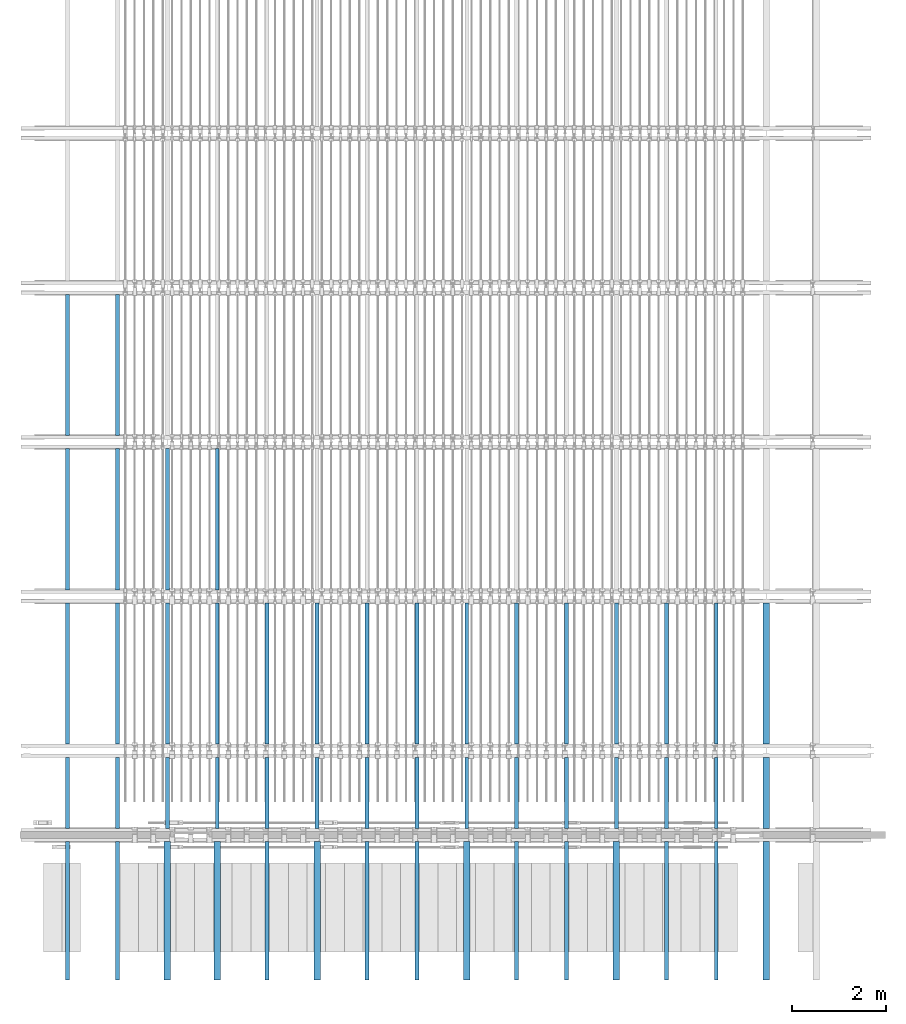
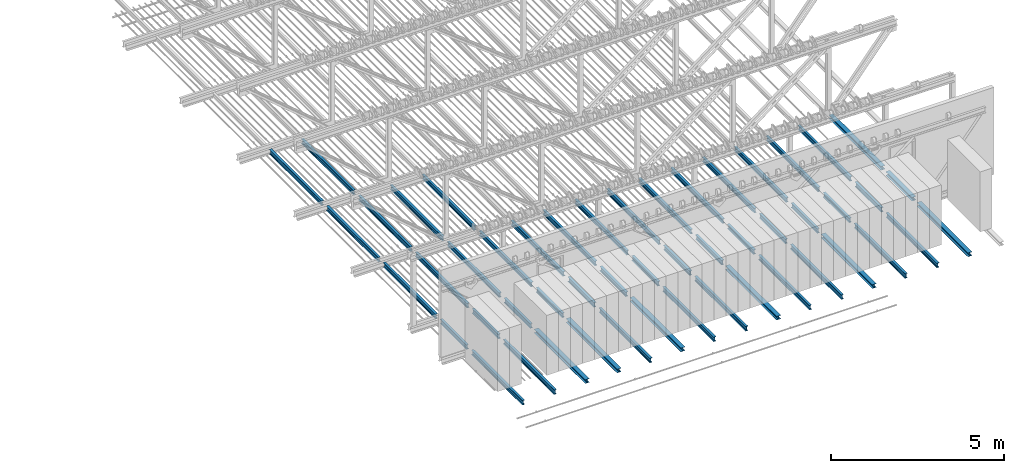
# One storey, part 1 of 8: 51 beams.
"""IFC2X3 building model written with IfcOpenShell, lengths in millimetres."""

from ifc_helpers import new_model, entity, si_unit, converted_unit, direction, frame, frame_2d, origin, place, context, subcontext, project, spatial, i_section, extrude, material, type_object, element, save


model = new_model("IFC2X3")

# Units and contexts
model_context = context("Model", 3, precision=0.01, world=origin(), true_north=direction((6.123233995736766e-17, 1.0)))
body_context = subcontext(model_context, "Body", "Model", "MODEL_VIEW")
ifc_project = project(units=[si_unit("LENGTHUNIT", "METRE", prefix="MILLI"), si_unit("AREAUNIT", "SQUARE_METRE"), converted_unit("PLANEANGLEUNIT", "DEGREE", entity("IfcPlaneAngleMeasure", 0.017453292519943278), si_unit("PLANEANGLEUNIT", "RADIAN"), dimensions=[0, 0, 0, 0, 0, 0, 0])], contexts=[model_context])

# Site, building, storey
site_placement = place(None, origin())
site = spatial("IfcSite", under=ifc_project, at=site_placement, Name="Default", CompositionType="ELEMENT")
building_placement = place(site_placement, origin())
building = spatial("IfcBuilding", under=site, at=building_placement, CompositionType="ELEMENT")
storey_placement = place(building_placement, frame((0.0, 0.0, 30550.0)))
storey = spatial("IfcBuildingStorey", under=building, at=storey_placement, Name="Rollenzolder", CompositionType="ELEMENT", Elevation=30550.000000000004)

# Beams
ifc_material = material(Name="Staal PBTA")
beam_type_1 = type_object("IfcBeamType", Name="H-Balk:HEA140", PredefinedType="BEAM")
beam_1_placement = place(storey_placement, frame((9736.744931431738, 12691.167906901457, -30.0), z_axis=(0.0, 0.0, 1.0), x_axis=(0.0, -1.0, 0.0)))
element("IfcBeam", 1, at=beam_1_placement, inside=storey, type_object=beam_type_1, material=ifc_material, Name="H-Balk:HEA140", ObjectType="H-Balk:HEA140", context=body_context, shape_type="SweptSolid", body=[
    extrude(i_section(OverallWidth=139.99999999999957, OverallDepth=132.99999999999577, WebThickness=5.499999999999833, FlangeThickness=8.499999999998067, FilletRadius=12.000000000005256, at=frame_2d((0.0, 0.0), x_axis=(0.0, 1.0))), frame((0.0, 0.0, -66.5000000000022), z_axis=(1.0, 0.0, 0.0), x_axis=(0.0, 0.0, -1.0)), (0.0, 0.0, 1.0), 2960.000000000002),
])
for number, where, z_axis, x_axis, name in (
    (2, (12936.74493143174, 12691.167906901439, -30.0), (0.0, 0.0, 1.0), (0.0, -1.0, 0.0), "H-Balk:HEA140"),
    (3, (16136.74493143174, 12691.167906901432, -30.0), (0.0, 0.0, 1.0), (0.0, -1.0, 0.0), "H-Balk:HEA140"),
):
    element("IfcBeam", number, at=place(storey_placement, frame(where, z_axis=z_axis, x_axis=x_axis)), inside=storey, type_object=beam_type_1, material=ifc_material, Name=name, ObjectType="H-Balk:HEA140", context=body_context, shape_type="SweptSolid", body=[
        extrude(i_section(OverallWidth=139.9999999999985, OverallDepth=132.99999999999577, WebThickness=5.500000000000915, FlangeThickness=8.499999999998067, FilletRadius=12.000000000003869, at=frame_2d((0.0, 1.0800249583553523e-12), x_axis=(0.0, 1.0))), frame((0.0, 0.0, -66.5000000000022), z_axis=(1.0, 0.0, 0.0), x_axis=(0.0, 0.0, -1.0)), (0.0, 0.0, 1.0), 2960.000000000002),
    ])
beam_2_placement = place(storey_placement, frame((19336.74493143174, 12691.167906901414, -30.0), z_axis=(0.0, 0.0, 1.0), x_axis=(0.0, -1.0, 0.0)))
element("IfcBeam", 4, at=beam_2_placement, inside=storey, type_object=beam_type_1, material=ifc_material, Name="H-Balk:HEA140", ObjectType="H-Balk:HEA140", context=body_context, shape_type="SweptSolid", body=[
    extrude(i_section(OverallWidth=139.9999999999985, OverallDepth=132.99999999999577, WebThickness=5.500000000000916, FlangeThickness=8.499999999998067, FilletRadius=12.000000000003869, at=frame_2d((0.0, 5.4143356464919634e-12), x_axis=(0.0, 1.0))), frame((0.0, 0.0, -66.5000000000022), z_axis=(1.0, 0.0, 0.0), x_axis=(0.0, 0.0, -1.0)), (0.0, 0.0, 1.0), 2960.000000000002),
])
beam_3_placement = place(storey_placement, frame((22536.744931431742, 12691.167906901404, -30.0), z_axis=(0.0, 0.0, 1.0), x_axis=(0.0, -1.0, 0.0)))
element("IfcBeam", 5, at=beam_3_placement, inside=storey, type_object=beam_type_1, material=ifc_material, Name="H-Balk:HEA140", ObjectType="H-Balk:HEA140", context=body_context, shape_type="SweptSolid", body=[
    extrude(i_section(OverallWidth=140.0000000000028, OverallDepth=132.99999999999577, WebThickness=5.4999999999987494, FlangeThickness=8.499999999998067, FilletRadius=12.000000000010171, at=frame_2d((0.0, -2.1600499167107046e-12), x_axis=(0.0, 1.0))), frame((0.0, 0.0, -66.5000000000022), z_axis=(1.0, 0.0, 0.0), x_axis=(0.0, 0.0, -1.0)), (0.0, 0.0, 1.0), 2960.000000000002),
])
beam_4_placement = place(storey_placement, frame((10803.411598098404, 12689.667906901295, -30.0), z_axis=(0.0, 0.0, 1.0), x_axis=(0.0, -1.0, 0.0)))
element("IfcBeam", 6, at=beam_4_placement, inside=storey, type_object=beam_type_1, material=ifc_material, Name="H-Balk:HEA140", ObjectType="H-Balk:HEA140", context=body_context, shape_type="SweptSolid", body=[
    extrude(i_section(OverallWidth=140.00000000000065, OverallDepth=132.99999999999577, WebThickness=5.500000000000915, FlangeThickness=8.499999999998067, FilletRadius=12.000000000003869, at=frame_2d((0.0, -1.0800249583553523e-12), x_axis=(0.0, 1.0))), frame((0.24999999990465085, 0.0, -66.5000000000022), z_axis=(1.0, 0.0, 0.0), x_axis=(0.0, 0.0, -1.0)), (0.0, 0.0, 1.0), 2958.000000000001),
])
beam_5_placement = place(storey_placement, frame((22536.74493143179, 14772.667906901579, -30.0), z_axis=(0.0, 0.0, 1.0), x_axis=(0.0, 1.0, 0.0)))
element("IfcBeam", 7, at=beam_5_placement, inside=storey, type_object=beam_type_1, material=ifc_material, Name="H-Balk:HEA140", ObjectType="H-Balk:HEA140", context=body_context, shape_type="SweptSolid", body=[
    extrude(i_section(OverallWidth=140.0000000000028, OverallDepth=133.00000000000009, WebThickness=5.4999999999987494, FlangeThickness=8.5000000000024, FilletRadius=12.000000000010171, at=frame_2d((2.1600499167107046e-12, 2.1600499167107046e-12), x_axis=(0.0, 1.0))), frame((0.0, 0.0, -66.5000000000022), z_axis=(1.0, 0.0, 0.0), x_axis=(0.0, 0.0, -1.0)), (0.0, 0.0, 1.0), 3017.0000000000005),
])
beam_6_placement = place(storey_placement, frame((22536.744931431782, 14489.66790690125, -30.0), z_axis=(0.0, 0.0, 1.0), x_axis=(0.0, -1.0, 0.0)))
element("IfcBeam", 8, at=beam_6_placement, inside=storey, type_object=beam_type_1, material=ifc_material, Name="H-Balk:HEA140", ObjectType="H-Balk:HEA140", context=body_context, shape_type="SweptSolid", body=[
    extrude(i_section(OverallWidth=140.0000000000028, OverallDepth=132.99999999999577, WebThickness=5.4999999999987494, FlangeThickness=8.499999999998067, FilletRadius=12.000000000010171, at=frame_2d((0.0, 2.1600499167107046e-12), x_axis=(0.0, 1.0))), frame((0.0, 0.0, -66.5000000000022), z_axis=(1.0, 0.0, 0.0), x_axis=(0.0, 0.0, -1.0)), (0.0, 0.0, 1.0), 1517.0000000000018),
])
beam_type_2 = type_object("IfcBeamType", Name="IPE-Balk:IPE160", PredefinedType="BEAM")
beam_7_placement = place(storey_placement, frame((10803.41159809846, 18072.667906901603, -30.0), z_axis=(0.0, 0.0, 1.0), x_axis=(0.0, 1.0, 0.0)))
element("IfcBeam", 9, at=beam_7_placement, inside=storey, type_object=beam_type_2, material=ifc_material, Name="IPE-Balk:IPE160", ObjectType="IPE-Balk:IPE160", context=body_context, shape_type="SweptSolid", body=[
    extrude(i_section(OverallWidth=82.00000000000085, OverallDepth=159.9999999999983, WebThickness=5.0000000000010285, FlangeThickness=7.399999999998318, FilletRadius=8.999999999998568, at=frame_2d((-4.32720526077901e-12, -1.0835776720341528e-12), x_axis=(0.0, 1.0))), frame((0.0, 0.0, -80.0), z_axis=(1.0, 0.0, 0.0), x_axis=(0.0, 0.0, -1.0)), (0.0, 0.0, 1.0), 3017.0000000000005),
])
for number, where, z_axis, x_axis, name in (
    (10, (10803.411598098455, 14772.667906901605, -30.0), (0.0, 0.0, 1.0), (0.0, 1.0, 0.0), "IPE-Balk:IPE160"),
    (11, (11870.078264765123, 14772.66790690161, -30.0), (0.0, 0.0, 1.0), (0.0, 1.0, 0.0), "IPE-Balk:IPE160"),
):
    element("IfcBeam", number, at=place(storey_placement, frame(where, z_axis=z_axis, x_axis=x_axis)), inside=storey, type_object=beam_type_2, material=ifc_material, Name=name, ObjectType="IPE-Balk:IPE160", context=body_context, shape_type="SweptSolid", body=[
        extrude(i_section(OverallWidth=82.00000000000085, OverallDepth=159.9999999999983, WebThickness=5.0000000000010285, FlangeThickness=7.399999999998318, FilletRadius=8.999999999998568, at=frame_2d((-4.32720526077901e-12, 1.0835776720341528e-12), x_axis=(0.0, 1.0))), frame((0.0, 0.0, -80.0), z_axis=(1.0, 0.0, 0.0), x_axis=(0.0, 0.0, -1.0)), (0.0, 0.0, 1.0), 3017.0000000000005),
    ])
beam_8_placement = place(storey_placement, frame((11870.07826476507, 12689.66790690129, -30.0), z_axis=(0.0, 0.0, 1.0), x_axis=(0.0, -1.0, 0.0)))
element("IfcBeam", 12, at=beam_8_placement, inside=storey, type_object=beam_type_2, material=ifc_material, Name="IPE-Balk:IPE160", ObjectType="IPE-Balk:IPE160", context=body_context, shape_type="SweptSolid", body=[
    extrude(i_section(OverallWidth=81.99999999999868, OverallDepth=159.9999999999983, WebThickness=5.0000000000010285, FlangeThickness=7.399999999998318, FilletRadius=8.999999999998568, at=frame_2d((-4.32720526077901e-12, 0.0), x_axis=(0.0, 1.0))), frame((0.24999999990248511, 0.0, -80.0), z_axis=(1.0, 0.0, 0.0), x_axis=(0.0, 0.0, -1.0)), (0.0, 0.0, 1.0), 2958.000000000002),
])
for number, where, z_axis, x_axis, name in (
    (13, (10803.411598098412, 14489.667906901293, -30.0), (0.0, 0.0, 1.0), (0.0, -1.0, 0.0), "IPE-Balk:IPE160"),
    (14, (11870.07826476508, 14489.667906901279, -30.0), (0.0, 0.0, 1.0), (0.0, -1.0, 0.0), "IPE-Balk:IPE160"),
):
    element("IfcBeam", number, at=place(storey_placement, frame(where, z_axis=z_axis, x_axis=x_axis)), inside=storey, type_object=beam_type_2, material=ifc_material, Name=name, ObjectType="IPE-Balk:IPE160", context=body_context, shape_type="SweptSolid", body=[
        extrude(i_section(OverallWidth=82.00000000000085, OverallDepth=159.9999999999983, WebThickness=5.0000000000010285, FlangeThickness=7.399999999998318, FilletRadius=8.999999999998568, at=frame_2d((-4.32720526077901e-12, 0.0), x_axis=(0.0, 1.0))), frame((0.0, 0.0, -80.0), z_axis=(1.0, 0.0, 0.0), x_axis=(0.0, 0.0, -1.0)), (0.0, 0.0, 1.0), 1517.0000000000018),
    ])
beam_9_placement = place(storey_placement, frame((14003.411598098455, 14772.667906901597, -30.0), z_axis=(0.0, 0.0, 1.0), x_axis=(0.0, 1.0, 0.0)))
element("IfcBeam", 15, at=beam_9_placement, inside=storey, type_object=beam_type_2, material=ifc_material, Name="IPE-Balk:IPE160", ObjectType="IPE-Balk:IPE160", context=body_context, shape_type="SweptSolid", body=[
    extrude(i_section(OverallWidth=82.00000000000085, OverallDepth=159.9999999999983, WebThickness=5.0000000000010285, FlangeThickness=7.399999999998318, FilletRadius=8.999999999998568, at=frame_2d((-4.32720526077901e-12, 1.0835776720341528e-12), x_axis=(0.0, 1.0))), frame((0.0, 0.0, -80.0), z_axis=(1.0, 0.0, 0.0), x_axis=(0.0, 0.0, -1.0)), (0.0, 0.0, 1.0), 3017.0000000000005),
])
beam_10_placement = place(storey_placement, frame((15070.078264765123, 14772.6679069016, -30.0), z_axis=(0.0, 0.0, 1.0), x_axis=(0.0, 1.0, 0.0)))
element("IfcBeam", 16, at=beam_10_placement, inside=storey, type_object=beam_type_2, material=ifc_material, Name="IPE-Balk:IPE160", ObjectType="IPE-Balk:IPE160", context=body_context, shape_type="SweptSolid", body=[
    extrude(i_section(OverallWidth=82.00000000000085, OverallDepth=159.9999999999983, WebThickness=5.0000000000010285, FlangeThickness=7.399999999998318, FilletRadius=8.999999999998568, at=frame_2d((-4.32720526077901e-12, 3.247180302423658e-12), x_axis=(0.0, 1.0))), frame((0.0, 0.0, -80.0), z_axis=(1.0, 0.0, 0.0), x_axis=(0.0, 0.0, -1.0)), (0.0, 0.0, 1.0), 3017.0000000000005),
])
beam_11_placement = place(storey_placement, frame((14003.411598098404, 12689.667906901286, -30.0), z_axis=(0.0, 0.0, 1.0), x_axis=(0.0, -1.0, 0.0)))
element("IfcBeam", 17, at=beam_11_placement, inside=storey, type_object=beam_type_2, material=ifc_material, Name="IPE-Balk:IPE160", ObjectType="IPE-Balk:IPE160", context=body_context, shape_type="SweptSolid", body=[
    extrude(i_section(OverallWidth=81.99999999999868, OverallDepth=159.9999999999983, WebThickness=5.0000000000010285, FlangeThickness=7.399999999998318, FilletRadius=8.999999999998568, at=frame_2d((-4.32720526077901e-12, 0.0), x_axis=(0.0, 1.0))), frame((0.2499999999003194, 0.0, -80.0), z_axis=(1.0, 0.0, 0.0), x_axis=(0.0, 0.0, -1.0)), (0.0, 0.0, 1.0), 2957.9999999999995),
])
beam_12_placement = place(storey_placement, frame((15070.07826476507, 12689.667906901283, -30.0), z_axis=(0.0, 0.0, 1.0), x_axis=(0.0, -1.0, 0.0)))
element("IfcBeam", 18, at=beam_12_placement, inside=storey, type_object=beam_type_2, material=ifc_material, Name="IPE-Balk:IPE160", ObjectType="IPE-Balk:IPE160", context=body_context, shape_type="SweptSolid", body=[
    extrude(i_section(OverallWidth=81.99999999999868, OverallDepth=159.9999999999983, WebThickness=5.0000000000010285, FlangeThickness=7.399999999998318, FilletRadius=8.999999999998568, at=frame_2d((-4.32720526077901e-12, 0.0), x_axis=(0.0, 1.0))), frame((0.24999999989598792, 0.0, -80.0), z_axis=(1.0, 0.0, 0.0), x_axis=(0.0, 0.0, -1.0)), (0.0, 0.0, 1.0), 2958.000000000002),
])
for number, where, z_axis, x_axis, name in (
    (19, (14003.411598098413, 14489.667906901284, -30.0), (0.0, 0.0, 1.0), (0.0, -1.0, 0.0), "IPE-Balk:IPE160"),
    (20, (15070.07826476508, 14489.667906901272, -30.0), (0.0, 0.0, 1.0), (0.0, -1.0, 0.0), "IPE-Balk:IPE160"),
):
    element("IfcBeam", number, at=place(storey_placement, frame(where, z_axis=z_axis, x_axis=x_axis)), inside=storey, type_object=beam_type_2, material=ifc_material, Name=name, ObjectType="IPE-Balk:IPE160", context=body_context, shape_type="SweptSolid", body=[
        extrude(i_section(OverallWidth=82.00000000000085, OverallDepth=159.9999999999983, WebThickness=5.0000000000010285, FlangeThickness=7.399999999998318, FilletRadius=8.999999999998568, at=frame_2d((-4.32720526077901e-12, 0.0), x_axis=(0.0, 1.0))), frame((0.0, 0.0, -80.0), z_axis=(1.0, 0.0, 0.0), x_axis=(0.0, 0.0, -1.0)), (0.0, 0.0, 1.0), 1517.0000000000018),
    ])
beam_13_placement = place(storey_placement, frame((17203.411598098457, 14772.667906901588, -30.0), z_axis=(0.0, 0.0, 1.0), x_axis=(0.0, 1.0, 0.0)))
element("IfcBeam", 21, at=beam_13_placement, inside=storey, type_object=beam_type_2, material=ifc_material, Name="IPE-Balk:IPE160", ObjectType="IPE-Balk:IPE160", context=body_context, shape_type="SweptSolid", body=[
    extrude(i_section(OverallWidth=82.00000000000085, OverallDepth=159.9999999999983, WebThickness=5.0000000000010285, FlangeThickness=7.399999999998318, FilletRadius=8.999999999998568, at=frame_2d((-4.32720526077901e-12, 3.247180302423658e-12), x_axis=(0.0, 1.0))), frame((0.0, 0.0, -80.0), z_axis=(1.0, 0.0, 0.0), x_axis=(0.0, 0.0, -1.0)), (0.0, 0.0, 1.0), 3017.0000000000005),
])
beam_14_placement = place(storey_placement, frame((18270.07826476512, 14772.667906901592, -30.0), z_axis=(0.0, 0.0, 1.0), x_axis=(0.0, 1.0, 0.0)))
element("IfcBeam", 22, at=beam_14_placement, inside=storey, type_object=beam_type_2, material=ifc_material, Name="IPE-Balk:IPE160", ObjectType="IPE-Balk:IPE160", context=body_context, shape_type="SweptSolid", body=[
    extrude(i_section(OverallWidth=82.00000000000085, OverallDepth=159.9999999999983, WebThickness=5.0000000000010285, FlangeThickness=7.399999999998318, FilletRadius=8.999999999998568, at=frame_2d((-4.32720526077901e-12, 1.0835776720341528e-12), x_axis=(0.0, 1.0))), frame((0.0, 0.0, -80.0), z_axis=(1.0, 0.0, 0.0), x_axis=(0.0, 0.0, -1.0)), (0.0, 0.0, 1.0), 3017.0000000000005),
])
beam_15_placement = place(storey_placement, frame((17203.411598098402, 12689.667906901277, -30.0), z_axis=(0.0, 0.0, 1.0), x_axis=(0.0, -1.0, 0.0)))
element("IfcBeam", 23, at=beam_15_placement, inside=storey, type_object=beam_type_2, material=ifc_material, Name="IPE-Balk:IPE160", ObjectType="IPE-Balk:IPE160", context=body_context, shape_type="SweptSolid", body=[
    extrude(i_section(OverallWidth=81.99999999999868, OverallDepth=159.9999999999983, WebThickness=5.0000000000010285, FlangeThickness=7.399999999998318, FilletRadius=8.999999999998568, at=frame_2d((-4.32720526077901e-12, -2.163602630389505e-12), x_axis=(0.0, 1.0))), frame((0.24999999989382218, 0.0, -80.0), z_axis=(1.0, 0.0, 0.0), x_axis=(0.0, 0.0, -1.0)), (0.0, 0.0, 1.0), 2957.9999999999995),
])
beam_16_placement = place(storey_placement, frame((18270.07826476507, 12689.667906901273, -30.0), z_axis=(0.0, 0.0, 1.0), x_axis=(0.0, -1.0, 0.0)))
element("IfcBeam", 24, at=beam_16_placement, inside=storey, type_object=beam_type_2, material=ifc_material, Name="IPE-Balk:IPE160", ObjectType="IPE-Balk:IPE160", context=body_context, shape_type="SweptSolid", body=[
    extrude(i_section(OverallWidth=81.99999999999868, OverallDepth=159.9999999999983, WebThickness=5.0000000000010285, FlangeThickness=7.399999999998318, FilletRadius=8.999999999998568, at=frame_2d((-4.32720526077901e-12, -2.163602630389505e-12), x_axis=(0.0, 1.0))), frame((0.24999999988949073, 0.0, -80.0), z_axis=(1.0, 0.0, 0.0), x_axis=(0.0, 0.0, -1.0)), (0.0, 0.0, 1.0), 2958.000000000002),
])
for number, where, z_axis, x_axis, name in (
    (25, (17203.411598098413, 14489.667906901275, -30.0), (0.0, 0.0, 1.0), (0.0, -1.0, 0.0), "IPE-Balk:IPE160"),
    (26, (18270.07826476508, 14489.667906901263, -30.0), (0.0, 0.0, 1.0), (0.0, -1.0, 0.0), "IPE-Balk:IPE160"),
):
    element("IfcBeam", number, at=place(storey_placement, frame(where, z_axis=z_axis, x_axis=x_axis)), inside=storey, type_object=beam_type_2, material=ifc_material, Name=name, ObjectType="IPE-Balk:IPE160", context=body_context, shape_type="SweptSolid", body=[
        extrude(i_section(OverallWidth=82.00000000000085, OverallDepth=159.9999999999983, WebThickness=5.0000000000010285, FlangeThickness=7.399999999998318, FilletRadius=8.999999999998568, at=frame_2d((-4.32720526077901e-12, 0.0), x_axis=(0.0, 1.0))), frame((0.0, 0.0, -80.0), z_axis=(1.0, 0.0, 0.0), x_axis=(0.0, 0.0, -1.0)), (0.0, 0.0, 1.0), 1517.0000000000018),
    ])
beam_17_placement = place(storey_placement, frame((20403.411598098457, 14772.667906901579, -30.0), z_axis=(0.0, 0.0, 1.0), x_axis=(0.0, 1.0, 0.0)))
element("IfcBeam", 27, at=beam_17_placement, inside=storey, type_object=beam_type_2, material=ifc_material, Name="IPE-Balk:IPE160", ObjectType="IPE-Balk:IPE160", context=body_context, shape_type="SweptSolid", body=[
    extrude(i_section(OverallWidth=81.99999999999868, OverallDepth=159.9999999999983, WebThickness=4.999999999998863, FlangeThickness=7.399999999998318, FilletRadius=8.999999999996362, at=frame_2d((-4.32720526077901e-12, 4.330757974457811e-12), x_axis=(0.0, 1.0))), frame((0.0, 0.0, -80.0), z_axis=(1.0, 0.0, 0.0), x_axis=(0.0, 0.0, -1.0)), (0.0, 0.0, 1.0), 3017.0000000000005),
])
beam_18_placement = place(storey_placement, frame((21470.078264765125, 14772.667906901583, -30.0), z_axis=(0.0, 0.0, 1.0), x_axis=(0.0, 1.0, 0.0)))
element("IfcBeam", 28, at=beam_18_placement, inside=storey, type_object=beam_type_2, material=ifc_material, Name="IPE-Balk:IPE160", ObjectType="IPE-Balk:IPE160", context=body_context, shape_type="SweptSolid", body=[
    extrude(i_section(OverallWidth=81.99999999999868, OverallDepth=159.9999999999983, WebThickness=4.999999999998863, FlangeThickness=7.399999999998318, FilletRadius=8.999999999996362, at=frame_2d((-4.32720526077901e-12, 0.0), x_axis=(0.0, 1.0))), frame((0.0, 0.0, -80.0), z_axis=(1.0, 0.0, 0.0), x_axis=(0.0, 0.0, -1.0)), (0.0, 0.0, 1.0), 3017.0000000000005),
])
beam_19_placement = place(storey_placement, frame((20403.411598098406, 12689.667906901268, -30.0), z_axis=(0.0, 0.0, 1.0), x_axis=(0.0, -1.0, 0.0)))
element("IfcBeam", 29, at=beam_19_placement, inside=storey, type_object=beam_type_2, material=ifc_material, Name="IPE-Balk:IPE160", ObjectType="IPE-Balk:IPE160", context=body_context, shape_type="SweptSolid", body=[
    extrude(i_section(OverallWidth=81.99999999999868, OverallDepth=159.9999999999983, WebThickness=4.999999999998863, FlangeThickness=7.399999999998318, FilletRadius=8.999999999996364, at=frame_2d((-4.32720526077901e-12, 0.0), x_axis=(0.0, 1.0))), frame((0.24999999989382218, 0.0, -80.0), z_axis=(1.0, 0.0, 0.0), x_axis=(0.0, 0.0, -1.0)), (0.0, 0.0, 1.0), 2957.9999999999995),
])
beam_20_placement = place(storey_placement, frame((21470.07826476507, 12689.667906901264, -30.0), z_axis=(0.0, 0.0, 1.0), x_axis=(0.0, -1.0, 0.0)))
element("IfcBeam", 30, at=beam_20_placement, inside=storey, type_object=beam_type_2, material=ifc_material, Name="IPE-Balk:IPE160", ObjectType="IPE-Balk:IPE160", context=body_context, shape_type="SweptSolid", body=[
    extrude(i_section(OverallWidth=81.99999999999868, OverallDepth=159.9999999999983, WebThickness=4.999999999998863, FlangeThickness=7.399999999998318, FilletRadius=8.999999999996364, at=frame_2d((-4.32720526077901e-12, 0.0), x_axis=(0.0, 1.0))), frame((0.24999999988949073, 0.0, -80.0), z_axis=(1.0, 0.0, 0.0), x_axis=(0.0, 0.0, -1.0)), (0.0, 0.0, 1.0), 2958.000000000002),
])
for number, where, z_axis, x_axis, name in (
    (31, (20403.411598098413, 14489.667906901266, -30.0), (0.0, 0.0, 1.0), (0.0, -1.0, 0.0), "IPE-Balk:IPE160"),
    (32, (21470.07826476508, 14489.667906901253, -30.0), (0.0, 0.0, 1.0), (0.0, -1.0, 0.0), "IPE-Balk:IPE160"),
):
    element("IfcBeam", number, at=place(storey_placement, frame(where, z_axis=z_axis, x_axis=x_axis)), inside=storey, type_object=beam_type_2, material=ifc_material, Name=name, ObjectType="IPE-Balk:IPE160", context=body_context, shape_type="SweptSolid", body=[
        extrude(i_section(OverallWidth=81.99999999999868, OverallDepth=159.9999999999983, WebThickness=4.999999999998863, FlangeThickness=7.399999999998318, FilletRadius=8.999999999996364, at=frame_2d((-4.32720526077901e-12, 0.0), x_axis=(0.0, 1.0))), frame((0.0, 0.0, -80.0), z_axis=(1.0, 0.0, 0.0), x_axis=(0.0, 0.0, -1.0)), (0.0, 0.0, 1.0), 1517.0000000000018),
    ])
beam_21_placement = place(storey_placement, frame((7603.411598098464, 21372.667906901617, -30.0), z_axis=(0.0, 0.0, 1.0), x_axis=(0.0, 1.0, 0.0)))
element("IfcBeam", 33, at=beam_21_placement, inside=storey, type_object=beam_type_2, material=ifc_material, Name="IPE-Balk:IPE160", ObjectType="IPE-Balk:IPE160", context=body_context, shape_type="SweptSolid", body=[
    extrude(i_section(OverallWidth=81.99999999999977, OverallDepth=159.9999999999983, WebThickness=4.999999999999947, FlangeThickness=7.399999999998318, FilletRadius=8.999999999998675, at=frame_2d((-4.32720526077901e-12, 5.435651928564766e-13), x_axis=(0.0, 1.0))), frame((0.0, 0.0, -80.0), z_axis=(1.0, 0.0, 0.0), x_axis=(0.0, 0.0, -1.0)), (0.0, 0.0, 1.0), 3017.0000000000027),
])
beam_22_placement = place(storey_placement, frame((8670.07826476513, 21372.667906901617, -30.0), z_axis=(0.0, 0.0, 1.0), x_axis=(0.0, 1.0, 0.0)))
element("IfcBeam", 34, at=beam_22_placement, inside=storey, type_object=beam_type_2, material=ifc_material, Name="IPE-Balk:IPE160", ObjectType="IPE-Balk:IPE160", context=body_context, shape_type="SweptSolid", body=[
    extrude(i_section(OverallWidth=81.99999999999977, OverallDepth=159.9999999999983, WebThickness=4.999999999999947, FlangeThickness=7.399999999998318, FilletRadius=8.999999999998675, at=frame_2d((-4.32720526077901e-12, 1.623590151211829e-12), x_axis=(0.0, 1.0))), frame((0.0, 0.0, -80.0), z_axis=(1.0, 0.0, 0.0), x_axis=(0.0, 0.0, -1.0)), (0.0, 0.0, 1.0), 3017.0000000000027),
])
beam_23_placement = place(storey_placement, frame((7603.41159809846, 18072.667906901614, -30.0), z_axis=(0.0, 0.0, 1.0), x_axis=(0.0, 1.0, 0.0)))
element("IfcBeam", 35, at=beam_23_placement, inside=storey, type_object=beam_type_2, material=ifc_material, Name="IPE-Balk:IPE160", ObjectType="IPE-Balk:IPE160", context=body_context, shape_type="SweptSolid", body=[
    extrude(i_section(OverallWidth=81.99999999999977, OverallDepth=159.9999999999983, WebThickness=4.999999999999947, FlangeThickness=7.399999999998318, FilletRadius=8.999999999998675, at=frame_2d((-4.32720526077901e-12, -5.435651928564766e-13), x_axis=(0.0, 1.0))), frame((0.0, 0.0, -80.0), z_axis=(1.0, 0.0, 0.0), x_axis=(0.0, 0.0, -1.0)), (0.0, 0.0, 1.0), 3017.0000000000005),
])
beam_24_placement = place(storey_placement, frame((8670.078264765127, 18072.667906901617, -30.0), z_axis=(0.0, 0.0, 1.0), x_axis=(0.0, 1.0, 0.0)))
element("IfcBeam", 36, at=beam_24_placement, inside=storey, type_object=beam_type_2, material=ifc_material, Name="IPE-Balk:IPE160", ObjectType="IPE-Balk:IPE160", context=body_context, shape_type="SweptSolid", body=[
    extrude(i_section(OverallWidth=81.99999999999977, OverallDepth=159.9999999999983, WebThickness=4.999999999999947, FlangeThickness=7.399999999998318, FilletRadius=8.999999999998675, at=frame_2d((-4.32720526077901e-12, -1.623590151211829e-12), x_axis=(0.0, 1.0))), frame((0.0, 0.0, -80.0), z_axis=(1.0, 0.0, 0.0), x_axis=(0.0, 0.0, -1.0)), (0.0, 0.0, 1.0), 3017.0000000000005),
])
for number, where, z_axis, x_axis, name in (
    (37, (7603.411598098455, 14772.667906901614, -30.0), (0.0, 0.0, 1.0), (0.0, 1.0, 0.0), "IPE-Balk:IPE160"),
    (38, (8670.078264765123, 14772.667906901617, -30.0), (0.0, 0.0, 1.0), (0.0, 1.0, 0.0), "IPE-Balk:IPE160"),
):
    element("IfcBeam", number, at=place(storey_placement, frame(where, z_axis=z_axis, x_axis=x_axis)), inside=storey, type_object=beam_type_2, material=ifc_material, Name=name, ObjectType="IPE-Balk:IPE160", context=body_context, shape_type="SweptSolid", body=[
        extrude(i_section(OverallWidth=81.99999999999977, OverallDepth=159.9999999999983, WebThickness=4.999999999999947, FlangeThickness=7.399999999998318, FilletRadius=8.999999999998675, at=frame_2d((-4.32720526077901e-12, -5.435651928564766e-13), x_axis=(0.0, 1.0))), frame((0.0, 0.0, -80.0), z_axis=(1.0, 0.0, 0.0), x_axis=(0.0, 0.0, -1.0)), (0.0, 0.0, 1.0), 3017.0000000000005),
    ])
beam_25_placement = place(storey_placement, frame((7603.411598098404, 12689.667906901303, -30.0), z_axis=(0.0, 0.0, 1.0), x_axis=(0.0, -1.0, 0.0)))
element("IfcBeam", 39, at=beam_25_placement, inside=storey, type_object=beam_type_2, material=ifc_material, Name="IPE-Balk:IPE160", ObjectType="IPE-Balk:IPE160", context=body_context, shape_type="SweptSolid", body=[
    extrude(i_section(OverallWidth=82.00000000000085, OverallDepth=159.9999999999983, WebThickness=4.999999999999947, FlangeThickness=7.399999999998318, FilletRadius=8.99999999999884, at=frame_2d((-4.32720526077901e-12, 1.623590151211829e-12), x_axis=(0.0, 1.0))), frame((0.2499999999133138, 0.0, -80.0), z_axis=(1.0, 0.0, 0.0), x_axis=(0.0, 0.0, -1.0)), (0.0, 0.0, 1.0), 2957.9999999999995),
])
beam_26_placement = place(storey_placement, frame((8670.078264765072, 12689.667906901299, -30.0), z_axis=(0.0, 0.0, 1.0), x_axis=(0.0, -1.0, 0.0)))
element("IfcBeam", 40, at=beam_26_placement, inside=storey, type_object=beam_type_2, material=ifc_material, Name="IPE-Balk:IPE160", ObjectType="IPE-Balk:IPE160", context=body_context, shape_type="SweptSolid", body=[
    extrude(i_section(OverallWidth=82.00000000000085, OverallDepth=159.9999999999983, WebThickness=4.999999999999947, FlangeThickness=7.399999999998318, FilletRadius=8.99999999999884, at=frame_2d((-4.32720526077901e-12, 1.623590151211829e-12), x_axis=(0.0, 1.0))), frame((0.24999999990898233, 0.0, -80.0), z_axis=(1.0, 0.0, 0.0), x_axis=(0.0, 0.0, -1.0)), (0.0, 0.0, 1.0), 2958.000000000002),
])
beam_27_placement = place(storey_placement, frame((7603.411598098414, 14489.6679069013, -30.0), z_axis=(0.0, 0.0, 1.0), x_axis=(0.0, -1.0, 0.0)))
element("IfcBeam", 41, at=beam_27_placement, inside=storey, type_object=beam_type_2, material=ifc_material, Name="IPE-Balk:IPE160", ObjectType="IPE-Balk:IPE160", context=body_context, shape_type="SweptSolid", body=[
    extrude(i_section(OverallWidth=82.00000000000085, OverallDepth=159.9999999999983, WebThickness=4.999999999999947, FlangeThickness=7.399999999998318, FilletRadius=8.99999999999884, at=frame_2d((-4.32720526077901e-12, -5.435651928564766e-13), x_axis=(0.0, 1.0))), frame((0.0, 0.0, -80.0), z_axis=(1.0, 0.0, 0.0), x_axis=(0.0, 0.0, -1.0)), (0.0, 0.0, 1.0), 1517.0000000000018),
])
beam_28_placement = place(storey_placement, frame((8670.078264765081, 14489.667906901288, -30.0), z_axis=(0.0, 0.0, 1.0), x_axis=(0.0, -1.0, 0.0)))
element("IfcBeam", 42, at=beam_28_placement, inside=storey, type_object=beam_type_2, material=ifc_material, Name="IPE-Balk:IPE160", ObjectType="IPE-Balk:IPE160", context=body_context, shape_type="SweptSolid", body=[
    extrude(i_section(OverallWidth=82.00000000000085, OverallDepth=159.9999999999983, WebThickness=4.999999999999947, FlangeThickness=7.399999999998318, FilletRadius=8.99999999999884, at=frame_2d((-4.32720526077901e-12, -1.623590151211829e-12), x_axis=(0.0, 1.0))), frame((0.0, 0.0, -80.0), z_axis=(1.0, 0.0, 0.0), x_axis=(0.0, 0.0, -1.0)), (0.0, 0.0, 1.0), 1517.0000000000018),
])
beam_29_placement = place(storey_placement, frame((9736.744931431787, 18072.667906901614, -30.0), z_axis=(0.0, 0.0, 1.0), x_axis=(0.0, 1.0, 0.0)))
element("IfcBeam", 43, at=beam_29_placement, inside=storey, type_object=beam_type_2, material=ifc_material, Name="IPE-Balk:IPE160", ObjectType="IPE-Balk:IPE160", context=body_context, shape_type="SweptSolid", body=[
    extrude(i_section(OverallWidth=82.00000000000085, OverallDepth=159.9999999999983, WebThickness=4.999999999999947, FlangeThickness=7.399999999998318, FilletRadius=8.999999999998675, at=frame_2d((-4.32720526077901e-12, 0.0), x_axis=(0.0, 1.0))), frame((0.0, 0.0, -80.0), z_axis=(1.0, 0.0, 0.0), x_axis=(0.0, 0.0, -1.0)), (0.0, 0.0, 1.0), 3017.0000000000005),
])
beam_30_placement = place(storey_placement, frame((12936.74493143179, 14772.667906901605, -30.0), z_axis=(0.0, 0.0, 1.0), x_axis=(0.0, 1.0, 0.0)))
element("IfcBeam", 44, at=beam_30_placement, inside=storey, type_object=beam_type_2, material=ifc_material, Name="IPE-Balk:IPE160", ObjectType="IPE-Balk:IPE160", context=body_context, shape_type="SweptSolid", body=[
    extrude(i_section(OverallWidth=82.00000000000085, OverallDepth=159.9999999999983, WebThickness=5.0000000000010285, FlangeThickness=7.399999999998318, FilletRadius=8.999999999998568, at=frame_2d((-4.32720526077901e-12, 3.247180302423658e-12), x_axis=(0.0, 1.0))), frame((0.0, 0.0, -80.0), z_axis=(1.0, 0.0, 0.0), x_axis=(0.0, 0.0, -1.0)), (0.0, 0.0, 1.0), 3017.0000000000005),
])
beam_31_placement = place(storey_placement, frame((16136.74493143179, 14772.667906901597, -30.0), z_axis=(0.0, 0.0, 1.0), x_axis=(0.0, 1.0, 0.0)))
element("IfcBeam", 45, at=beam_31_placement, inside=storey, type_object=beam_type_2, material=ifc_material, Name="IPE-Balk:IPE160", ObjectType="IPE-Balk:IPE160", context=body_context, shape_type="SweptSolid", body=[
    extrude(i_section(OverallWidth=82.00000000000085, OverallDepth=159.9999999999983, WebThickness=5.0000000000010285, FlangeThickness=7.399999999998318, FilletRadius=8.999999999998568, at=frame_2d((-4.32720526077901e-12, 1.0835776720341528e-12), x_axis=(0.0, 1.0))), frame((0.0, 0.0, -80.0), z_axis=(1.0, 0.0, 0.0), x_axis=(0.0, 0.0, -1.0)), (0.0, 0.0, 1.0), 3017.0000000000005),
])
beam_32_placement = place(storey_placement, frame((19336.74493143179, 14772.667906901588, -30.0), z_axis=(0.0, 0.0, 1.0), x_axis=(0.0, 1.0, 0.0)))
element("IfcBeam", 46, at=beam_32_placement, inside=storey, type_object=beam_type_2, material=ifc_material, Name="IPE-Balk:IPE160", ObjectType="IPE-Balk:IPE160", context=body_context, shape_type="SweptSolid", body=[
    extrude(i_section(OverallWidth=82.00000000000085, OverallDepth=159.9999999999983, WebThickness=5.0000000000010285, FlangeThickness=7.399999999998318, FilletRadius=8.999999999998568, at=frame_2d((-4.32720526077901e-12, 3.247180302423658e-12), x_axis=(0.0, 1.0))), frame((0.0, 0.0, -80.0), z_axis=(1.0, 0.0, 0.0), x_axis=(0.0, 0.0, -1.0)), (0.0, 0.0, 1.0), 3017.0000000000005),
])
beam_33_placement = place(storey_placement, frame((9736.744931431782, 14772.667906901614, -30.0), z_axis=(0.0, 0.0, 1.0), x_axis=(0.0, 1.0, 0.0)))
element("IfcBeam", 47, at=beam_33_placement, inside=storey, type_object=beam_type_2, material=ifc_material, Name="IPE-Balk:IPE160", ObjectType="IPE-Balk:IPE160", context=body_context, shape_type="SweptSolid", body=[
    extrude(i_section(OverallWidth=81.99999999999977, OverallDepth=159.9999999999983, WebThickness=4.999999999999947, FlangeThickness=7.399999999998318, FilletRadius=8.999999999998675, at=frame_2d((-4.32720526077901e-12, 3.7907454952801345e-12), x_axis=(0.0, 1.0))), frame((0.0, 0.0, -80.0), z_axis=(1.0, 0.0, 0.0), x_axis=(0.0, 0.0, -1.0)), (0.0, 0.0, 1.0), 3017.0000000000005),
])
beam_34_placement = place(storey_placement, frame((12936.744931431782, 14489.667906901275, -30.0), z_axis=(0.0, 0.0, 1.0), x_axis=(0.0, -1.0, 0.0)))
element("IfcBeam", 48, at=beam_34_placement, inside=storey, type_object=beam_type_2, material=ifc_material, Name="IPE-Balk:IPE160", ObjectType="IPE-Balk:IPE160", context=body_context, shape_type="SweptSolid", body=[
    extrude(i_section(OverallWidth=82.00000000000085, OverallDepth=159.9999999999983, WebThickness=5.0000000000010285, FlangeThickness=7.399999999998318, FilletRadius=8.999999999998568, at=frame_2d((-4.32720526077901e-12, 2.163602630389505e-12), x_axis=(0.0, 1.0))), frame((0.0, 0.0, -80.0), z_axis=(1.0, 0.0, 0.0), x_axis=(0.0, 0.0, -1.0)), (0.0, 0.0, 1.0), 1517.0000000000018),
])
beam_35_placement = place(storey_placement, frame((16136.744931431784, 14489.667906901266, -30.0), z_axis=(0.0, 0.0, 1.0), x_axis=(0.0, -1.0, 0.0)))
element("IfcBeam", 49, at=beam_35_placement, inside=storey, type_object=beam_type_2, material=ifc_material, Name="IPE-Balk:IPE160", ObjectType="IPE-Balk:IPE160", context=body_context, shape_type="SweptSolid", body=[
    extrude(i_section(OverallWidth=82.00000000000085, OverallDepth=159.9999999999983, WebThickness=5.0000000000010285, FlangeThickness=7.399999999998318, FilletRadius=8.999999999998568, at=frame_2d((-4.32720526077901e-12, 0.0), x_axis=(0.0, 1.0))), frame((0.0, 0.0, -80.0), z_axis=(1.0, 0.0, 0.0), x_axis=(0.0, 0.0, -1.0)), (0.0, 0.0, 1.0), 1517.0000000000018),
])
beam_36_placement = place(storey_placement, frame((19336.744931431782, 14489.667906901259, -30.0), z_axis=(0.0, 0.0, 1.0), x_axis=(0.0, -1.0, 0.0)))
element("IfcBeam", 50, at=beam_36_placement, inside=storey, type_object=beam_type_2, material=ifc_material, Name="IPE-Balk:IPE160", ObjectType="IPE-Balk:IPE160", context=body_context, shape_type="SweptSolid", body=[
    extrude(i_section(OverallWidth=82.00000000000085, OverallDepth=159.9999999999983, WebThickness=5.0000000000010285, FlangeThickness=7.399999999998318, FilletRadius=8.999999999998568, at=frame_2d((-4.32720526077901e-12, 2.163602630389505e-12), x_axis=(0.0, 1.0))), frame((0.0, 0.0, -80.0), z_axis=(1.0, 0.0, 0.0), x_axis=(0.0, 0.0, -1.0)), (0.0, 0.0, 1.0), 1517.0000000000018),
])
beam_37_placement = place(storey_placement, frame((9736.744931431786, 14489.667906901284, -30.0), z_axis=(0.0, 0.0, 1.0), x_axis=(0.0, -1.0, 0.0)))
element("IfcBeam", 51, at=beam_37_placement, inside=storey, type_object=beam_type_2, material=ifc_material, Name="IPE-Balk:IPE160", ObjectType="IPE-Balk:IPE160", context=body_context, shape_type="SweptSolid", body=[
    extrude(i_section(OverallWidth=82.00000000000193, OverallDepth=159.9999999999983, WebThickness=4.999999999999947, FlangeThickness=7.399999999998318, FilletRadius=8.99999999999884, at=frame_2d((-4.32720526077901e-12, 0.0), x_axis=(0.0, 1.0))), frame((0.0, 0.0, -80.0), z_axis=(1.0, 0.0, 0.0), x_axis=(0.0, 0.0, -1.0)), (0.0, 0.0, 1.0), 1517.0000000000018),
])

save(model, "model.ifc")
